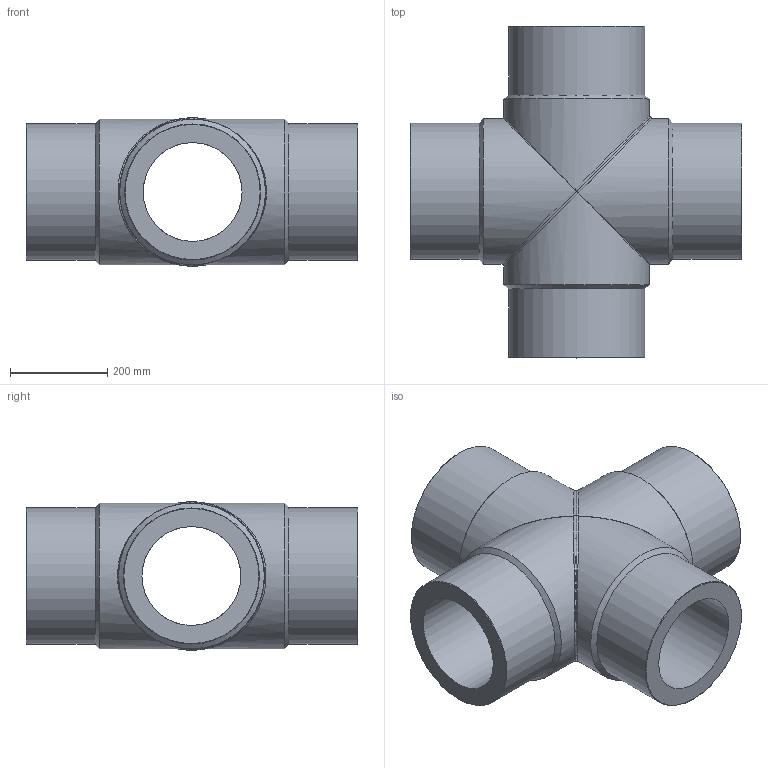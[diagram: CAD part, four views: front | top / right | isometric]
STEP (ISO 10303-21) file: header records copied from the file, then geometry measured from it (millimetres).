
FILE_DESCRIPTION(/* description */ ('Unknown'),/* implementation_level */ '2;1');
FILE_NAME(/* name */ 'CRP280H',/* time_stamp */ '2022-07-08T14:59:29+02:00',/* author */ ('Unknown'),/* organization */ ('Unknown'),/* preprocessor_version */ 'ST-DEVELOPER v18.102',/* originating_system */ 'Solid Edge',/* authorisation */ 'Unknown');
FILE_SCHEMA (('AUTOMOTIVE_DESIGN {1 0 10303 214 3 1 1}'));
Length unit declared in the file: millimetre
Products named in the file (3): CRP280H; CRP280H_mir
Assembly tree (2 placements, depth 2):
  CRP280H
    CRP280H
    CRP280H_mir
Bounding box: 682.5 x 682.5 x 304.99 mm (x, y, z)
Volume: 34431752.5 mm3; surface area: 1839261.2 mm2
Topology: 2 solids, 2 shells, 32 faces, 144 edges, 114 vertices
Faces by surface type: cylinder 12, cone 8, plane 6, bspline 6
Full cylindrical faces by diameter (mm): 203.4 x4, 280 x4, 300 x4
Entity records: 4141 total; most frequent: CARTESIAN_POINT 3143, ORIENTED_EDGE 228, DIRECTION 126, EDGE_CURVE 114, VERTEX_POINT 104, B_SPLINE_CURVE_WITH_KNOTS 80, AXIS2_PLACEMENT_3D 63, EDGE_LOOP 58
